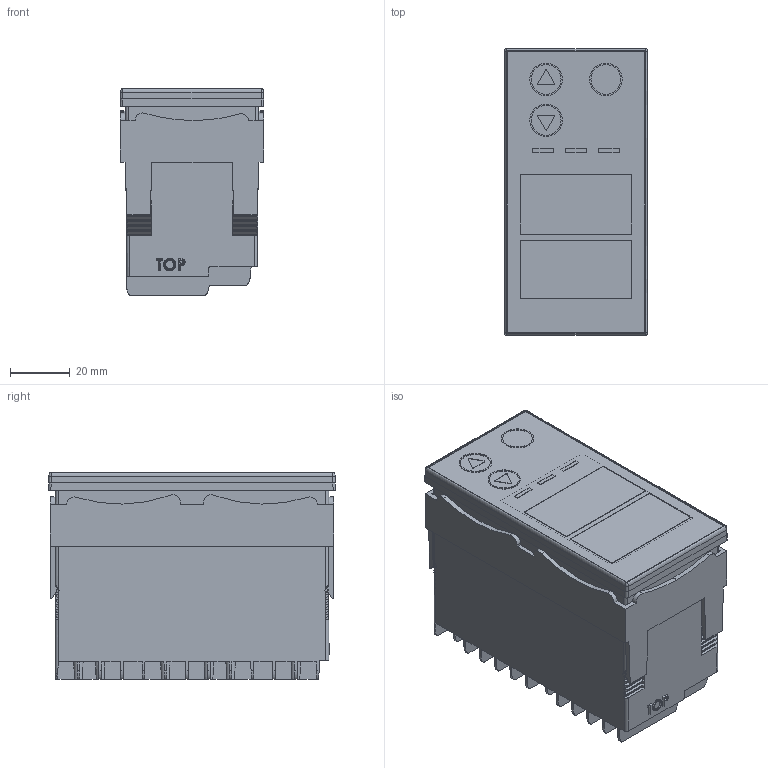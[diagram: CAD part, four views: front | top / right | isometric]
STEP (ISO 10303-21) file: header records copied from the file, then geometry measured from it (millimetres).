
FILE_DESCRIPTION( ( '' ), '1' );
FILE_NAME( '//Server/Users/WC000/WC011/WORKING/DEV/V 1-00/MV08/MV08 - CC-02.stp', '2017-01-10T19:49:12', ( 'KPM' ), ( 'KMC Design' ), 'PSStep 17.0.49', ' ', ' ' );
FILE_SCHEMA( ( 'AUTOMOTIVE_DESIGN { 1 0 10303 214 1 1 1 1 }' ) );
Length unit declared in the file: millimetre
Products named in the file (5): Assem1; 18779 - CC-01; 18767 - CC-01; 18600 - CC - 02; 15017 - CC-01
Assembly tree (4 placements, depth 2):
  Assem1
    18779 - CC-01
    18767 - CC-01
    18600 - CC - 02
    15017 - CC-01
Bounding box: 48.09 x 96.09 x 69.3 mm (x, y, z)
Volume: 262649.5 mm3; surface area: 63054.8 mm2
Topology: 4 solids, 6 shells, 656 faces, 1826 edges, 1213 vertices
Faces by surface type: plane 455, cylinder 95, extrusion 43, cone 32, bspline 16, sphere 7, torus 4, revolution 4
Full cylindrical faces by diameter (mm): 10 x3, 10.9 x3
Entity records: 29156 total; most frequent: CARTESIAN_POINT 7250, ORIENTED_EDGE 3634, DIRECTION 3134, EDGE_CURVE 1817, VECTOR 1424, LINE 1381, VERTEX_POINT 1210, AXIS2_PLACEMENT_3D 853
